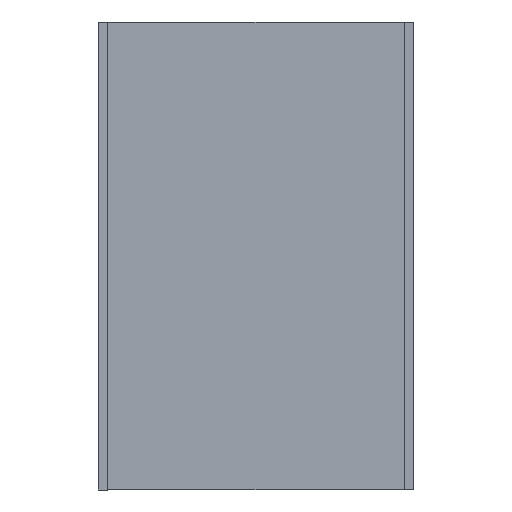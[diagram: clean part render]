
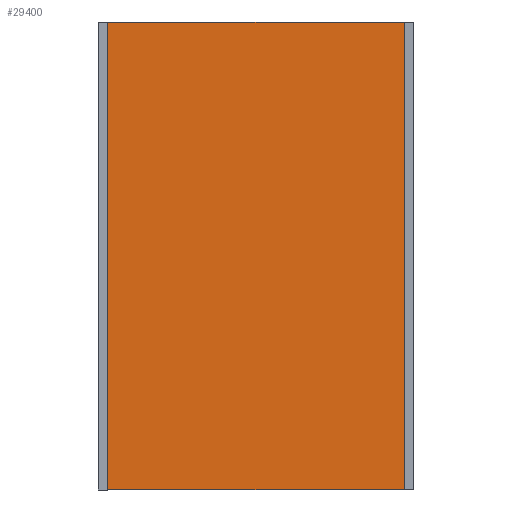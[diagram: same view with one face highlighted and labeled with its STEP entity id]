
A CAD part, left-side view. The second image highlights one B-rep face of the part: STEP entity #29400.
In plain terms, the highlighted planar face has unit normal (-1, 0, 0).
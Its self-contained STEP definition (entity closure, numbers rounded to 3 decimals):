
#765 = DIRECTION ( 'NONE',  ( 0., -1., 0. ) ) ;
#2403 = EDGE_CURVE ( 'NONE', #2574, #20855, #55197, .T. ) ;
#2574 = VERTEX_POINT ( 'NONE', #60389 ) ;
#6249 = EDGE_CURVE ( 'NONE', #20855, #25352, #23486, .T. ) ;
#7083 = ORIENTED_EDGE ( 'NONE', *, *, #26274, .T. ) ;
#8825 = PLANE ( 'NONE',  #33877 ) ;
#9024 = DIRECTION ( 'NONE',  ( 1., 0., 0. ) ) ;
#18399 = VECTOR ( 'NONE', #55091, 1000. ) ;
#18498 = LINE ( 'NONE', #41104, #18399 ) ;
#20855 = VERTEX_POINT ( 'NONE', #50255 ) ;
#21036 = ORIENTED_EDGE ( 'NONE', *, *, #2403, .T. ) ;
#21468 = CARTESIAN_POINT ( 'NONE',  ( 0., 19., -30. ) ) ;
#22823 = VECTOR ( 'NONE', #45508, 1000. ) ;
#23486 = LINE ( 'NONE', #44589, #22823 ) ;
#25352 = VERTEX_POINT ( 'NONE', #27314 ) ;
#26274 = EDGE_CURVE ( 'NONE', #33000, #2574, #30573, .T. ) ;
#27314 = CARTESIAN_POINT ( 'NONE',  ( 0., 19., 30. ) ) ;
#29400 = ADVANCED_FACE ( 'NONE', ( #41680 ), #8825, .F. ) ;
#30219 = EDGE_CURVE ( 'NONE', #25352, #33000, #18498, .T. ) ;
#30573 = LINE ( 'NONE', #33254, #30632 ) ;
#30632 = VECTOR ( 'NONE', #765, 1000. ) ;
#33000 = VERTEX_POINT ( 'NONE', #21468 ) ;
#33254 = CARTESIAN_POINT ( 'NONE',  ( 0., 19., -30. ) ) ;
#33877 = AXIS2_PLACEMENT_3D ( 'NONE', #37046, #9024, #41855 ) ;
#37046 = CARTESIAN_POINT ( 'NONE',  ( 0., -19., -30. ) ) ;
#41104 = CARTESIAN_POINT ( 'NONE',  ( 0., 19., 30. ) ) ;
#41195 = CARTESIAN_POINT ( 'NONE',  ( 0., -19., 30. ) ) ;
#41680 = FACE_OUTER_BOUND ( 'NONE', #48165, .T. ) ;
#41855 = DIRECTION ( 'NONE',  ( 0., 0., 1. ) ) ;
#44589 = CARTESIAN_POINT ( 'NONE',  ( 0., 19., 30. ) ) ;
#45508 = DIRECTION ( 'NONE',  ( 0., 1., 0. ) ) ;
#45974 = DIRECTION ( 'NONE',  ( 0., 0., 1. ) ) ;
#46172 = ORIENTED_EDGE ( 'NONE', *, *, #6249, .T. ) ;
#48165 = EDGE_LOOP ( 'NONE', ( #7083, #21036, #46172, #55238 ) ) ;
#50255 = CARTESIAN_POINT ( 'NONE',  ( 0., -19., 30. ) ) ;
#54441 = VECTOR ( 'NONE', #45974, 1000. ) ;
#55091 = DIRECTION ( 'NONE',  ( 0., 0., -1. ) ) ;
#55197 = LINE ( 'NONE', #41195, #54441 ) ;
#55238 = ORIENTED_EDGE ( 'NONE', *, *, #30219, .T. ) ;
#60389 = CARTESIAN_POINT ( 'NONE',  ( 0., -19., -30. ) ) ;
